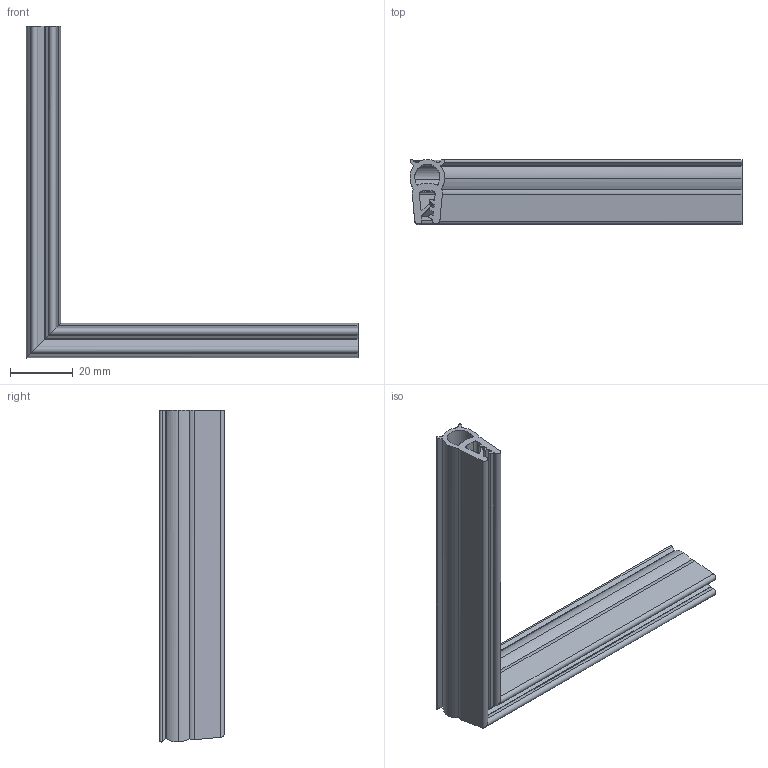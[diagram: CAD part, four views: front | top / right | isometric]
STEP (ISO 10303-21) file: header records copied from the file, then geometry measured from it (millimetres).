
FILE_DESCRIPTION( ( 'STEP AP203' ), '1' );
FILE_NAME( 'C:/Temp/Ganter_Step_05_03_2020/data/3_3/gn2181/Edge protection seal profile corner GN 2181-EPDM-20,5-A-160.stp', '2020-03-12T12:06:15', ( 'License CC BY-ND 4.0' ), ( 'CADENAS' ), ' ', 'PARTsolutions', ' ' );
FILE_SCHEMA( ( 'CONFIG_CONTROL_DESIGN' ) );
Length unit declared in the file: millimetre
Products named in the file (3): Edge protection seal profile corner GN 2181-EPDM-20,5-A-160; _Edge protection seal profile corner GN 2181-EPDM-20,5-A-160_1; _Edge protection seal profile corner GN 2181-EPDM-20,5-A-160_2
Assembly tree (2 placements, depth 2):
  Edge protection seal profile corner GN 2181-EPDM-20,5-A-160
    _Edge protection seal profile corner GN 2181-EPDM-20,5-A-160_1
    _Edge protection seal profile corner GN 2181-EPDM-20,5-A-160_2
Bounding box: 105.5 x 20.5 x 105.5 mm (x, y, z)
Volume: 21983.4 mm3; surface area: 24730.7 mm2
Topology: 2 solids, 2 shells, 120 faces, 348 edges, 232 vertices
Faces by surface type: cylinder 76, plane 44
Entity records: 4140 total; most frequent: DIRECTION 746, CARTESIAN_POINT 703, ORIENTED_EDGE 696, EDGE_CURVE 348, AXIS2_PLACEMENT_3D 275, VERTEX_POINT 232, LINE 196, VECTOR 196
